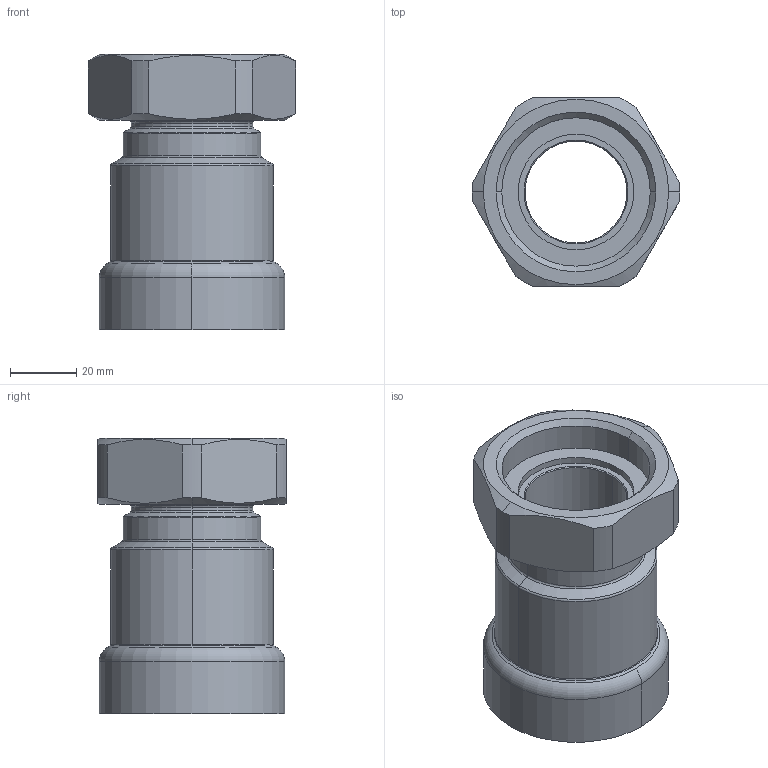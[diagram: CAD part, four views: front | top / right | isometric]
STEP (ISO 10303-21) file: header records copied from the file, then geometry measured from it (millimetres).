
FILE_DESCRIPTION(('Creo Elements/Direct Modeling STEP Export'),'2;1');
FILE_NAME('C9446_1-1-4_G1-1-2.stp','2020-07-20T15:24:55',(''),(''),'PTC Creo Elements/Direct Modeling STEP processor for AP214 (Solid Model)','PTC Creo Elements/Direct Modeling 19.0C 15-Aug-2015 (C) Parametric Technology GmbH','');
FILE_SCHEMA(('AUTOMOTIVE_DESIGN { 1 0 10303 214 1 1 1 1 }'));
Length unit declared in the file: millimetre
Products named in the file (2): C9446_1-1-4_G1-1-2
Assembly tree (1 placements, depth 2):
  C9446_1-1-4_G1-1-2
    C9446_1-1-4_G1-1-2
Bounding box: 62.7 x 57 x 83.1 mm (x, y, z)
Volume: 70904.7 mm3; surface area: 29773.2 mm2
Topology: 1 solids, 1 shells, 64 faces, 145 edges, 87 vertices
Faces by surface type: cylinder 22, cone 16, torus 14, plane 12
Entity records: 2641 total; most frequent: CARTESIAN_POINT 1232, ORIENTED_EDGE 290, DIRECTION 278, EDGE_CURVE 145, AXIS2_PLACEMENT_3D 117, VERTEX_POINT 87, EDGE_LOOP 70, FACE_OUTER_BOUND 64
